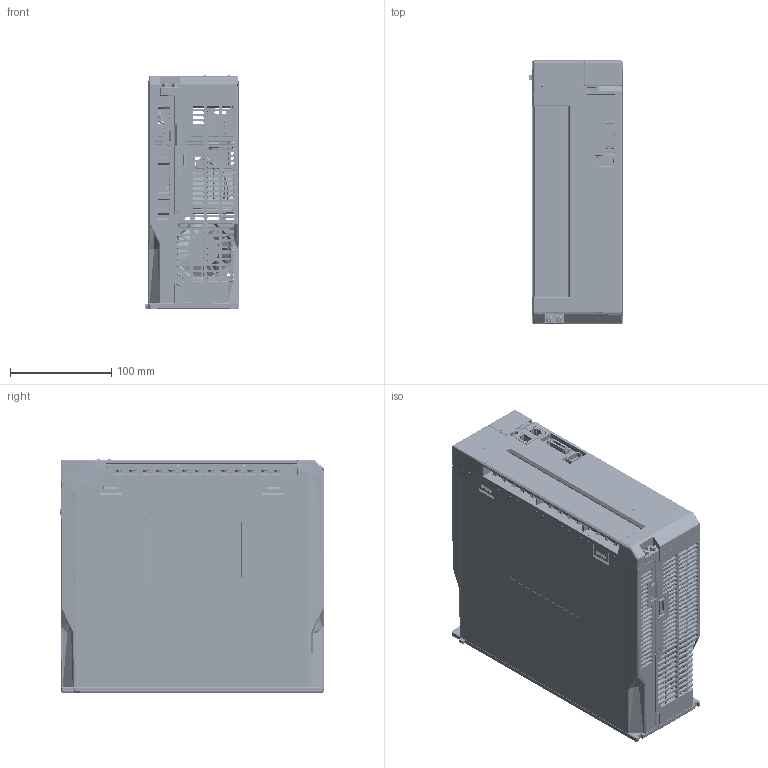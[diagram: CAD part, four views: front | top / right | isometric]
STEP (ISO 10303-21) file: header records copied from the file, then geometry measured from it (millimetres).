
FILE_DESCRIPTION (( 'STEP AP203' ), '1' );
FILE_NAME ('ED3L-50-75DEA-FS02_¿____________.STEP', '2025-01-02T14:36:28', ( '' ), ( '' ), 'SwSTEP 2.0', 'SolidWorks 2022', '' );
FILE_SCHEMA (( 'CONFIG_CONTROL_DESIGN' ));
Products named in the file (1): ED3L-50-75DEA-FS02_¿____________
Bounding box: 93 x 260.3 x 230.2 mm (x, y, z)
Topology: 0 solids, 1803 shells, 27055 faces, 69760 edges, 45731 vertices
Faces by surface type: plane 17245, cylinder 4610, bspline 4237, cone 895, torus 46, sphere 22
Full cylindrical faces by diameter (mm): 0.01 x15, 0.016 x9
Entity records: 972364 total; most frequent: CARTESIAN_POINT 355988, ORIENTED_EDGE 135207, DIRECTION 108124, EDGE_CURVE 69224, LINE 47112, VECTOR 47112, VERTEX_POINT 45723, AXIS2_PLACEMENT_3D 30506
